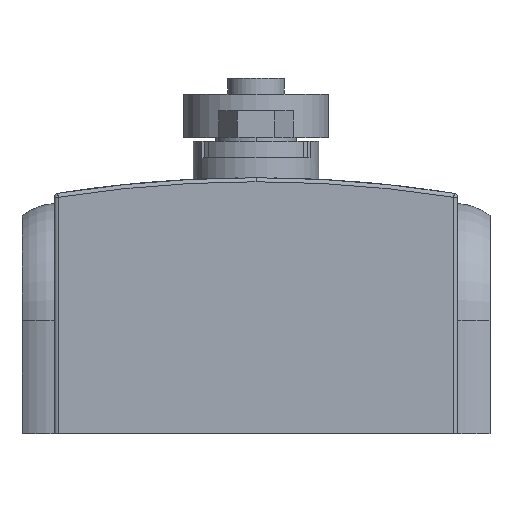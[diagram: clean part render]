
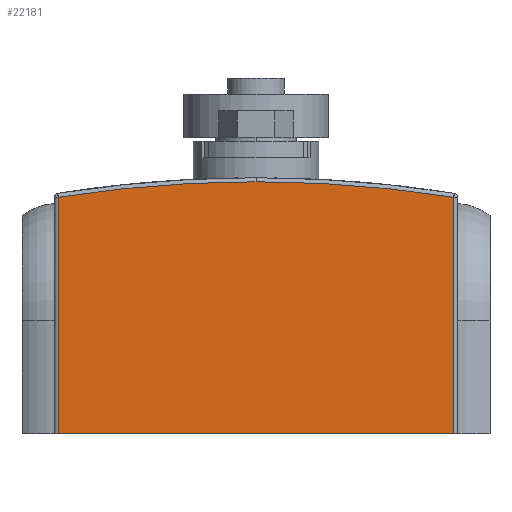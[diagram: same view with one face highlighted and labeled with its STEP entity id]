
A CAD part, front view. The second image highlights one B-rep face of the part: STEP entity #22181.
In plain terms, the highlighted planar face has unit normal (0, -1, 0).
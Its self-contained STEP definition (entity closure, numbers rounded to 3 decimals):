
#375 = CARTESIAN_POINT ( 'NONE',  ( -24.5, -26., 31.7 ) ) ;
#743 = FACE_OUTER_BOUND ( 'NONE', #13832, .T. ) ;
#2115 = CARTESIAN_POINT ( 'NONE',  ( -24.5, -26., 0. ) ) ;
#3602 = DIRECTION ( 'NONE',  ( 0., 0., -1. ) ) ;
#3722 = DIRECTION ( 'NONE',  ( 0., 0., 1. ) ) ;
#3909 = VECTOR ( 'NONE', #3602, 1000. ) ;
#5630 = LINE ( 'NONE', #27752, #28043 ) ;
#5942 = DIRECTION ( 'NONE',  ( 0., 1., 0. ) ) ;
#6527 = VECTOR ( 'NONE', #14462, 1000. ) ;
#6545 = CARTESIAN_POINT ( 'NONE',  ( 24.5, -26., 31.7 ) ) ;
#7557 = CIRCLE ( 'NONE', #8713, 156.8 ) ;
#8328 = DIRECTION ( 'NONE',  ( 0., 0., 1. ) ) ;
#8713 = AXIS2_PLACEMENT_3D ( 'NONE', #11280, #22231, #3722 ) ;
#10510 = CARTESIAN_POINT ( 'NONE',  ( 0., -26., -125.6 ) ) ;
#10967 = EDGE_CURVE ( 'NONE', #32122, #22787, #30383, .T. ) ;
#11280 = CARTESIAN_POINT ( 'NONE',  ( 0., -26., -125.6 ) ) ;
#11526 = CARTESIAN_POINT ( 'NONE',  ( 24.5, -26., 31.7 ) ) ;
#11767 = LINE ( 'NONE', #6545, #6527 ) ;
#12110 = VERTEX_POINT ( 'NONE', #19637 ) ;
#13003 = CIRCLE ( 'NONE', #33101, 156.8 ) ;
#13832 = EDGE_LOOP ( 'NONE', ( #24063, #17388, #33715, #14494, #25306 ) ) ;
#14462 = DIRECTION ( 'NONE',  ( 0., 0., -1. ) ) ;
#14494 = ORIENTED_EDGE ( 'NONE', *, *, #10967, .T. ) ;
#14663 = EDGE_CURVE ( 'NONE', #12110, #21122, #11767, .T. ) ;
#15792 = CARTESIAN_POINT ( 'NONE',  ( -24.5, -26., 29.274 ) ) ;
#16902 = DIRECTION ( 'NONE',  ( 0., 0., 1. ) ) ;
#17388 = ORIENTED_EDGE ( 'NONE', *, *, #34546, .T. ) ;
#17612 = CARTESIAN_POINT ( 'NONE',  ( 24.5, -26., 0. ) ) ;
#18822 = AXIS2_PLACEMENT_3D ( 'NONE', #11526, #5942, #16902 ) ;
#19637 = CARTESIAN_POINT ( 'NONE',  ( 24.5, -26., 29.274 ) ) ;
#20324 = EDGE_CURVE ( 'NONE', #29271, #32122, #13003, .T. ) ;
#21122 = VERTEX_POINT ( 'NONE', #17612 ) ;
#22181 = ADVANCED_FACE ( 'NONE', ( #743 ), #22657, .F. ) ;
#22231 = DIRECTION ( 'NONE',  ( 0., -1., 0. ) ) ;
#22657 = PLANE ( 'NONE',  #18822 ) ;
#22787 = VERTEX_POINT ( 'NONE', #2115 ) ;
#24063 = ORIENTED_EDGE ( 'NONE', *, *, #14663, .F. ) ;
#24245 = CARTESIAN_POINT ( 'NONE',  ( 0., -26., 31.2 ) ) ;
#25306 = ORIENTED_EDGE ( 'NONE', *, *, #28659, .T. ) ;
#27752 = CARTESIAN_POINT ( 'NONE',  ( 24.5, -26., 0. ) ) ;
#28043 = VECTOR ( 'NONE', #32787, 1000. ) ;
#28659 = EDGE_CURVE ( 'NONE', #22787, #21122, #5630, .T. ) ;
#29271 = VERTEX_POINT ( 'NONE', #24245 ) ;
#30383 = LINE ( 'NONE', #375, #3909 ) ;
#32122 = VERTEX_POINT ( 'NONE', #15792 ) ;
#32597 = DIRECTION ( 'NONE',  ( 0., -1., 0. ) ) ;
#32787 = DIRECTION ( 'NONE',  ( 1., 0., 0. ) ) ;
#33101 = AXIS2_PLACEMENT_3D ( 'NONE', #10510, #32597, #8328 ) ;
#33715 = ORIENTED_EDGE ( 'NONE', *, *, #20324, .T. ) ;
#34546 = EDGE_CURVE ( 'NONE', #12110, #29271, #7557, .T. ) ;
